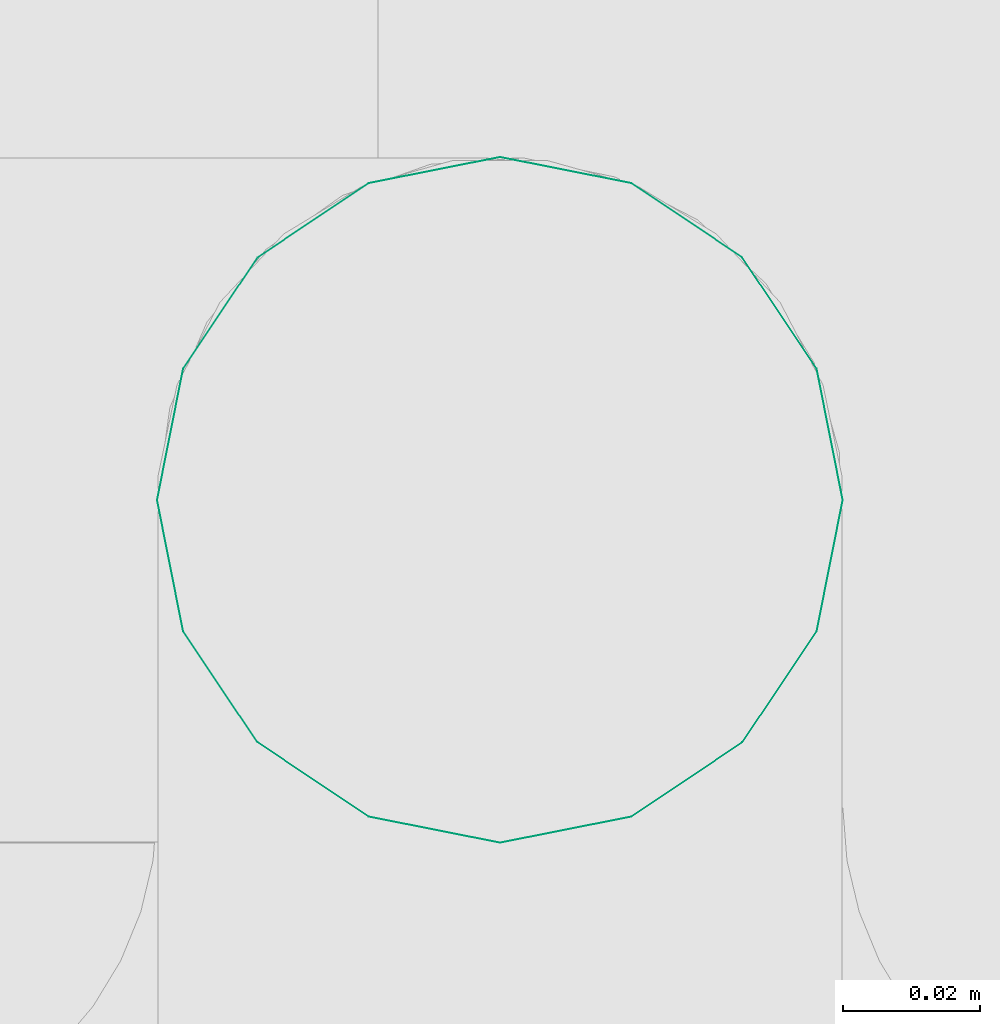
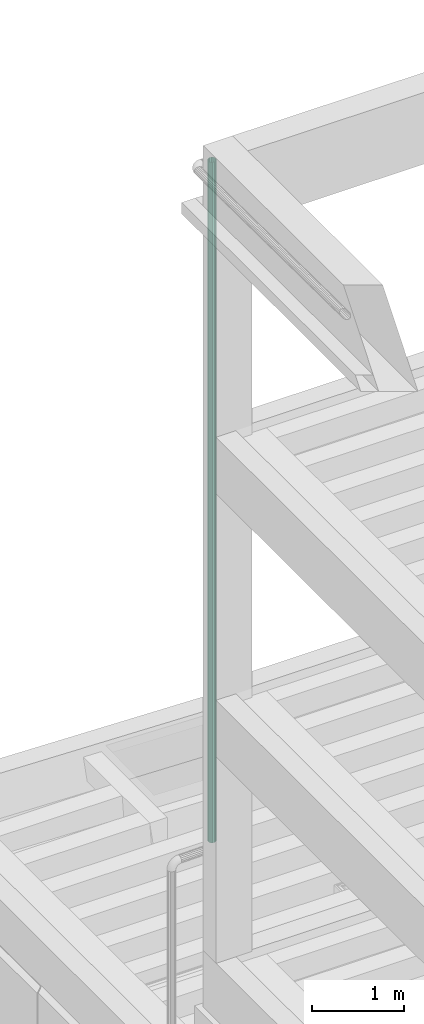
# One storey, part 47 of 106: 1 flow segment.
"""IFC2X3 building model written with IfcOpenShell, lengths in metres."""

from ifc_helpers import new_model, entity, si_unit, converted_unit, derived_unit, money_unit, direction, frame, origin_with_axes, place, context, subcontext, project, spatial, faceted_brep, material, type_object, element, save


model = new_model("IFC2X3")

# Units and contexts
model_context = context("Model", 3, precision=1e-05, world=origin_with_axes(), true_north=direction((0.0, 1.0)))
body_context = subcontext(model_context, "Body", "Model", "MODEL_VIEW", scale=1.0)
ifc_project = project(units=[si_unit("LENGTHUNIT", "METRE"), si_unit("AREAUNIT", "SQUARE_METRE"), si_unit("VOLUMEUNIT", "CUBIC_METRE"), si_unit("ABSORBEDDOSEUNIT", "GRAY"), si_unit("AMOUNTOFSUBSTANCEUNIT", "MOLE"), si_unit("DOSEEQUIVALENTUNIT", "SIEVERT"), si_unit("ELECTRICCAPACITANCEUNIT", "FARAD"), si_unit("ELECTRICCHARGEUNIT", "COULOMB"), si_unit("ELECTRICCONDUCTANCEUNIT", "SIEMENS"), si_unit("ELECTRICCURRENTUNIT", "AMPERE"), si_unit("ELECTRICRESISTANCEUNIT", "OHM"), si_unit("ELECTRICVOLTAGEUNIT", "VOLT"), si_unit("ENERGYUNIT", "JOULE"), si_unit("FORCEUNIT", "NEWTON"), si_unit("FREQUENCYUNIT", "HERTZ"), si_unit("ILLUMINANCEUNIT", "LUX"), si_unit("INDUCTANCEUNIT", "HENRY"), si_unit("LUMINOUSFLUXUNIT", "LUMEN"), si_unit("LUMINOUSINTENSITYUNIT", "CANDELA"), si_unit("MAGNETICFLUXDENSITYUNIT", "TESLA"), si_unit("MAGNETICFLUXUNIT", "WEBER"), si_unit("MASSUNIT", "GRAM"), converted_unit("PLANEANGLEUNIT", "degree", entity("IfcReal", 0.0174532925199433), si_unit("PLANEANGLEUNIT", "RADIAN"), dimensions=[0, 0, 0, 0, 0, 0, 0]), si_unit("POWERUNIT", "WATT"), si_unit("PRESSUREUNIT", "PASCAL"), si_unit("RADIOACTIVITYUNIT", "BECQUEREL"), si_unit("SOLIDANGLEUNIT", "STERADIAN"), si_unit("THERMODYNAMICTEMPERATUREUNIT", "KELVIN"), si_unit("TIMEUNIT", "SECOND"), derived_unit("ACCELERATIONUNIT", [(si_unit("LENGTHUNIT", "METRE"), 1), (si_unit("TIMEUNIT", "SECOND"), -2)]), derived_unit("ANGULARVELOCITYUNIT", [(converted_unit("PLANEANGLEUNIT", "degree", entity("IfcReal", 0.0174532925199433), si_unit("PLANEANGLEUNIT", "RADIAN"), dimensions=[0, 0, 0, 0, 0, 0, 0]), 1), (si_unit("TIMEUNIT", "SECOND"), -1)]), derived_unit("CURVATUREUNIT", [(converted_unit("PLANEANGLEUNIT", "degree", entity("IfcReal", 0.0174532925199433), si_unit("PLANEANGLEUNIT", "RADIAN"), dimensions=[0, 0, 0, 0, 0, 0, 0]), 1), (si_unit("LENGTHUNIT", "METRE"), -1)]), derived_unit("DYNAMICVISCOSITYUNIT", [(si_unit("PRESSUREUNIT", "PASCAL"), 1), (si_unit("TIMEUNIT", "SECOND"), 1)]), derived_unit("HEATFLUXDENSITYUNIT", [(si_unit("POWERUNIT", "WATT"), 1), (si_unit("LENGTHUNIT", "METRE"), -2)]), derived_unit("HEATINGVALUEUNIT", [(si_unit("ENERGYUNIT", "JOULE"), 1), (si_unit("MASSUNIT", "GRAM"), -1)]), derived_unit("INTEGERCOUNTRATEUNIT", [(si_unit("TIMEUNIT", "SECOND"), -1)]), derived_unit("IONCONCENTRATIONUNIT", [(si_unit("MASSUNIT", "GRAM"), 1), (si_unit("VOLUMEUNIT", "CUBIC_METRE"), -1)]), derived_unit("ISOTHERMALMOISTURECAPACITYUNIT", [(si_unit("VOLUMEUNIT", "CUBIC_METRE"), 1), (si_unit("MASSUNIT", "GRAM"), -1)]), derived_unit("KINEMATICVISCOSITYUNIT", [(si_unit("AREAUNIT", "SQUARE_METRE"), 1), (si_unit("TIMEUNIT", "SECOND"), -1)]), derived_unit("LINEARFORCEUNIT", [(si_unit("FORCEUNIT", "NEWTON"), 1), (si_unit("LENGTHUNIT", "METRE"), -1)]), derived_unit("LINEARMOMENTUNIT", [(si_unit("FORCEUNIT", "NEWTON"), 1), (si_unit("LENGTHUNIT", "METRE"), -1)]), derived_unit("LINEARSTIFFNESSUNIT", [(si_unit("FORCEUNIT", "NEWTON"), 1), (si_unit("LENGTHUNIT", "METRE"), -1)]), derived_unit("LINEARVELOCITYUNIT", [(si_unit("LENGTHUNIT", "METRE"), 1), (si_unit("TIMEUNIT", "SECOND"), -1)]), derived_unit("LUMINOUSINTENSITYDISTRIBUTIONUNIT", [(si_unit("LUMINOUSINTENSITYUNIT", "CANDELA"), 1), (si_unit("LUMINOUSFLUXUNIT", "LUMEN"), -1)]), derived_unit("MASSDENSITYUNIT", [(si_unit("MASSUNIT", "GRAM"), 1), (si_unit("VOLUMEUNIT", "CUBIC_METRE"), -1)]), derived_unit("MASSFLOWRATEUNIT", [(si_unit("MASSUNIT", "GRAM"), 1), (si_unit("TIMEUNIT", "SECOND"), -1)]), derived_unit("MASSPERLENGTHUNIT", [(si_unit("MASSUNIT", "GRAM"), 1), (si_unit("LENGTHUNIT", "METRE"), -1)]), derived_unit("MODULUSOFELASTICITYUNIT", [(si_unit("FORCEUNIT", "NEWTON"), 1), (si_unit("AREAUNIT", "SQUARE_METRE"), -1)]), derived_unit("MODULUSOFLINEARSUBGRADEREACTIONUNIT", [(si_unit("FORCEUNIT", "NEWTON"), 1), (si_unit("LENGTHUNIT", "METRE"), -2)]), derived_unit("MODULUSOFROTATIONALSUBGRADEREACTIONUNIT", [(si_unit("FORCEUNIT", "NEWTON"), 1), (si_unit("LENGTHUNIT", "METRE"), 1)]), derived_unit("MODULUSOFSUBGRADEREACTIONUNIT", [(si_unit("FORCEUNIT", "NEWTON"), 1), (si_unit("VOLUMEUNIT", "CUBIC_METRE"), -1)]), derived_unit("MOISTUREDIFFUSIVITYUNIT", [(si_unit("VOLUMEUNIT", "CUBIC_METRE"), 1), (si_unit("TIMEUNIT", "SECOND"), -1)]), derived_unit("MOLECULARWEIGHTUNIT", [(si_unit("MASSUNIT", "GRAM"), 1), (si_unit("AMOUNTOFSUBSTANCEUNIT", "MOLE"), -1)]), derived_unit("PLANARFORCEUNIT", [(si_unit("FORCEUNIT", "NEWTON"), 1), (si_unit("LENGTHUNIT", "METRE"), -2)]), derived_unit("ROTATIONALFREQUENCYUNIT", [(si_unit("TIMEUNIT", "SECOND"), -1)]), derived_unit("ROTATIONALMASSUNIT", [(si_unit("MASSUNIT", "GRAM"), 1), (si_unit("LENGTHUNIT", "METRE"), 2)]), derived_unit("ROTATIONALSTIFFNESSUNIT", [(si_unit("FORCEUNIT", "NEWTON"), 1), (si_unit("LENGTHUNIT", "METRE"), 1), (converted_unit("PLANEANGLEUNIT", "degree", entity("IfcReal", 0.0174532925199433), si_unit("PLANEANGLEUNIT", "RADIAN"), dimensions=[0, 0, 0, 0, 0, 0, 0]), -1)]), derived_unit("SECTIONAREAINTEGRALUNIT", [(si_unit("LENGTHUNIT", "METRE"), 5)]), derived_unit("SECTIONMODULUSUNIT", [(si_unit("LENGTHUNIT", "METRE"), 3)]), derived_unit("SHEARMODULUSUNIT", [(si_unit("FORCEUNIT", "NEWTON"), 1), (si_unit("AREAUNIT", "SQUARE_METRE"), -1)]), derived_unit("SOUNDPOWERUNIT", [(si_unit("ENERGYUNIT", "JOULE"), 1), (si_unit("TIMEUNIT", "SECOND"), -1)]), derived_unit("SPECIFICHEATCAPACITYUNIT", [(si_unit("FORCEUNIT", "NEWTON"), 1), (si_unit("MASSUNIT", "GRAM"), -1), (si_unit("THERMODYNAMICTEMPERATUREUNIT", "KELVIN"), -1)]), derived_unit("TEMPERATUREGRADIENTUNIT", [(si_unit("THERMODYNAMICTEMPERATUREUNIT", "KELVIN"), 1), (si_unit("LENGTHUNIT", "METRE"), -1)]), derived_unit("THERMALADMITTANCEUNIT", [(si_unit("POWERUNIT", "WATT"), 1), (si_unit("AREAUNIT", "SQUARE_METRE"), -1), (si_unit("THERMODYNAMICTEMPERATUREUNIT", "KELVIN"), -1)]), derived_unit("THERMALCONDUCTANCEUNIT", [(si_unit("POWERUNIT", "WATT"), 1), (si_unit("LENGTHUNIT", "METRE"), -1), (si_unit("THERMODYNAMICTEMPERATUREUNIT", "KELVIN"), -1)]), derived_unit("THERMALEXPANSIONCOEFFICIENTUNIT", [(si_unit("THERMODYNAMICTEMPERATUREUNIT", "KELVIN"), -1)]), derived_unit("THERMALRESISTANCEUNIT", [(si_unit("AREAUNIT", "SQUARE_METRE"), 1), (si_unit("POWERUNIT", "WATT"), -1)]), derived_unit("THERMALTRANSMITTANCEUNIT", [(si_unit("POWERUNIT", "WATT"), 1), (si_unit("AREAUNIT", "SQUARE_METRE"), -1), (si_unit("THERMODYNAMICTEMPERATUREUNIT", "KELVIN"), -1)]), derived_unit("TORQUEUNIT", [(si_unit("FORCEUNIT", "NEWTON"), 1), (si_unit("LENGTHUNIT", "METRE"), 1)]), derived_unit("VAPORPERMEABILITYUNIT", [(si_unit("MASSUNIT", "GRAM"), 1), (si_unit("TIMEUNIT", "SECOND"), -1)]), derived_unit("VOLUMETRICFLOWRATEUNIT", [(si_unit("VOLUMEUNIT", "CUBIC_METRE"), 1), (si_unit("TIMEUNIT", "SECOND"), -1)]), derived_unit("WARPINGCONSTANTUNIT", [(si_unit("LENGTHUNIT", "METRE"), 6)]), derived_unit("WARPINGMOMENTUNIT", [(si_unit("FORCEUNIT", "NEWTON"), 1), (si_unit("LENGTHUNIT", "METRE"), 2)]), money_unit("GBP")], contexts=[model_context])

# Site, building, storey
site_placement = place(None, origin_with_axes())
site = spatial("IfcSite", under=ifc_project, at=site_placement, Name="Site", CompositionType="ELEMENT")
building_placement = place(site_placement, origin_with_axes())
building = spatial("IfcBuilding", under=site, at=building_placement, Name="Building01", CompositionType="ELEMENT")
storey_placement = place(building_placement, origin_with_axes())
storey = spatial("IfcBuildingStorey", under=building, at=storey_placement, Name="GF", CompositionType="ELEMENT", Elevation=0.0)

# Flow segment
ifc_material = material(Name="M_BSUK_ColdWater")
pipe_segment_type = type_object("IfcPipeSegmentType", Name="M-BmpStraightpipe-DefaultPipe", PredefinedType="RIGIDSEGMENT")
flow_segment_placement = place(storey_placement, frame((0.408496, 14.95, 15.374315), z_axis=(0.0, -1.0, 0.0), x_axis=(0.0, 0.0, -1.0)))
element("IfcFlowSegment", 1, at=flow_segment_placement, inside=storey, type_object=pipe_segment_type, material=ifc_material, Name="M-BmpStraightpipe-DefaultPipe", ObjectType="M-BmpStraightpipe-DefaultPipe", context=body_context, shape_type="Brep", body=[
    faceted_brep([(9.027605, 0.0, -0.05), (0.0, 0.0, -0.05), (0.0, 0.019134, -0.046194), (9.027605, 0.019134, -0.046194), (0.0, 0.035355, -0.035355), (9.027605, 0.035355, -0.035355), (0.0, 0.046194, -0.019134), (9.027605, 0.046194, -0.019134), (0.0, 0.05, 0.0), (9.027605, 0.05, 0.0), (0.0, 0.046194, 0.019134), (9.027605, 0.046194, 0.019134), (0.0, 0.035355, 0.035355), (9.027605, 0.035355, 0.035355), (0.0, 0.019134, 0.046194), (9.027605, 0.019134, 0.046194), (0.0, 0.0, 0.05), (9.027605, 0.0, 0.05), (0.0, -0.019134, 0.046194), (9.027605, -0.019134, 0.046194), (0.0, -0.035355, 0.035355), (9.027605, -0.035355, 0.035355), (0.0, -0.046194, 0.019134), (9.027605, -0.046194, 0.019134), (0.0, -0.05, 0.0), (9.027605, -0.05, 0.0), (0.0, -0.046194, -0.019134), (9.027605, -0.046194, -0.019134), (0.0, -0.035355, -0.035355), (9.027605, -0.035355, -0.035355), (0.0, -0.019134, -0.046194), (9.027605, -0.019134, -0.046194)], [[[0, 1, 2, 3]], [[3, 2, 4, 5]], [[5, 4, 6, 7]], [[7, 6, 8, 9]], [[9, 8, 10, 11]], [[11, 10, 12, 13]], [[13, 12, 14, 15]], [[15, 14, 16, 17]], [[17, 16, 18, 19]], [[19, 18, 20, 21]], [[21, 20, 22, 23]], [[23, 22, 24, 25]], [[25, 24, 26, 27]], [[27, 26, 28, 29]], [[29, 28, 30, 31]], [[31, 30, 1, 0]]]),
])

save(model, "model.ifc")
